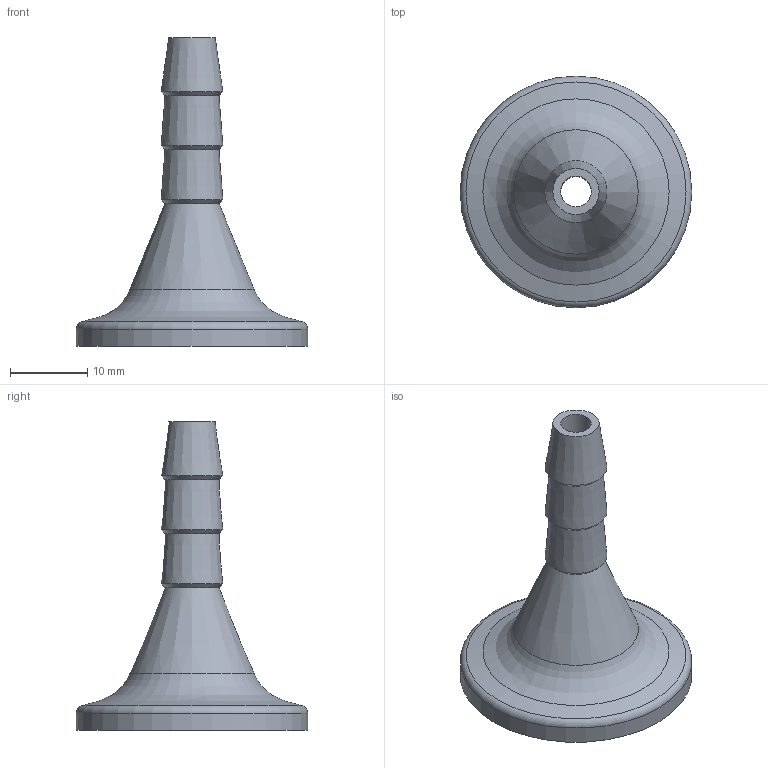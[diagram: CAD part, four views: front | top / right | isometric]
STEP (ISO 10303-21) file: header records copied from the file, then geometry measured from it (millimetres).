
FILE_DESCRIPTION( ( 'Unknown' ), '1' );
FILE_NAME( 'X:/Daten ( aktueller Bestand )/Projekte und Zeichnungen/Solid Edge/2 Bauteile KF/Alu/Schlauchwelle Alu/1601.stp', 'Unknown', ( 'Unknown' ), ( 'Unknown' ), 'XStep 1.0', 'Unknown', ' ' );
FILE_SCHEMA( ( 'automotive_design' ) );
Length unit declared in the file: millimetre
Products named in the file (1): 1
Bounding box: 30 x 30 x 40 mm (x, y, z)
Volume: 4811.9 mm3; surface area: 3235 mm2
Topology: 1 solids, 1 shells, 18 faces, 34 edges, 20 vertices
Faces by surface type: cone 8, plane 4, cylinder 4, torus 2
Full cylindrical faces by diameter (mm): 4 x1, 9.7 x1, 17.2 x1, 30 x1
Entity records: 528 total; most frequent: DIRECTION 74, CARTESIAN_POINT 55, AXIS2_PLACEMENT_3D 37, EDGE_LOOP 36, ORIENTED_EDGE 36, FACE_OUTER_BOUND 24, STYLED_ITEM 18, PRESENTATION_STYLE_ASSIGNMENT 18
